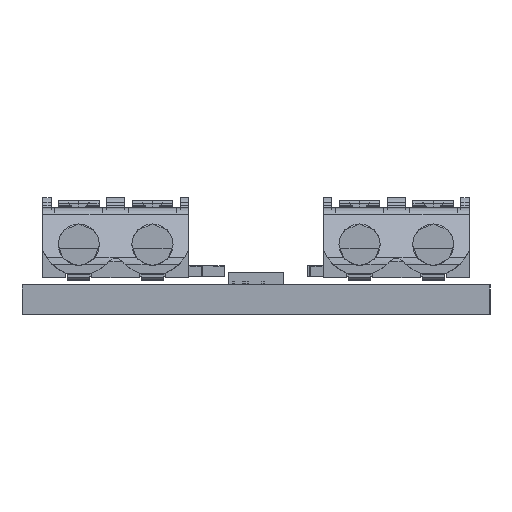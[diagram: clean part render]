
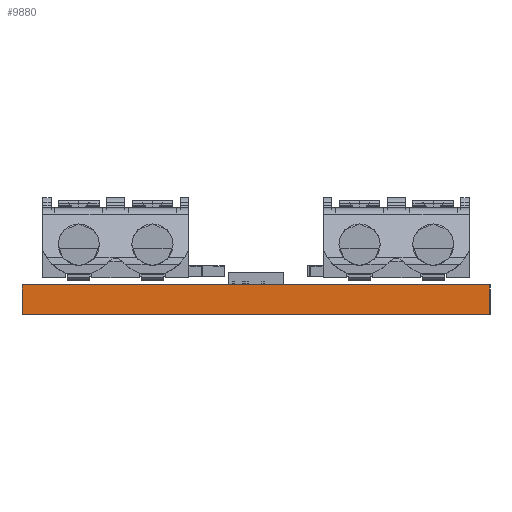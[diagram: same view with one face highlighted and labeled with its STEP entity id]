
A CAD part, left-side view. The second image highlights one B-rep face of the part: STEP entity #9880.
In plain terms, the highlighted planar face has unit normal (-1, 0, 0).
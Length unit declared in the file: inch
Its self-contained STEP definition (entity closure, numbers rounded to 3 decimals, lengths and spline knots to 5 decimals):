
#2557=DIRECTION('',(0.,-1.,0.));
#2558=VECTOR('',#2557,25.4);
#2559=CARTESIAN_POINT('',(-571.5,12.7,0.));
#2560=LINE('',#2559,#2558);
#2564=DIRECTION('',(0.,0.,1.));
#2565=VECTOR('',#2564,1.6);
#2566=CARTESIAN_POINT('',(-571.5,-12.7,0.));
#2567=LINE('',#2566,#2565);
#2571=DIRECTION('',(0.,0.,1.));
#2572=VECTOR('',#2571,1.6);
#2573=CARTESIAN_POINT('',(-571.5,12.7,0.));
#2574=LINE('',#2573,#2572);
#5119=DIRECTION('',(0.,-1.,0.));
#5120=VECTOR('',#5119,25.4);
#5121=CARTESIAN_POINT('',(-571.5,12.7,1.6));
#5122=LINE('',#5121,#5120);
#7660=CARTESIAN_POINT('',(-571.5,-12.7,0.));
#7662=VERTEX_POINT('',#7660);
#8386=CARTESIAN_POINT('',(-571.5,12.7,0.));
#8387=VERTEX_POINT('',#8386);
#8388=CARTESIAN_POINT('',(-571.5,-12.7,1.6));
#8390=VERTEX_POINT('',#8388);
#9114=CARTESIAN_POINT('',(-571.5,12.7,1.6));
#9115=VERTEX_POINT('',#9114);
#9867=CARTESIAN_POINT('',(-571.5,12.7,0.));
#9868=DIRECTION('',(-1.,0.,0.));
#9869=DIRECTION('',(0.,-1.,0.));
#9870=AXIS2_PLACEMENT_3D('',#9867,#9868,#9869);
#9871=PLANE('',#9870);
#9872=ORIENTED_EDGE('',*,*,#9847,.F.);
#9874=ORIENTED_EDGE('',*,*,#9873,.T.);
#9876=ORIENTED_EDGE('',*,*,#9875,.T.);
#9877=ORIENTED_EDGE('',*,*,#9858,.F.);
#9878=EDGE_LOOP('',(#9872,#9874,#9876,#9877));
#9879=FACE_OUTER_BOUND('',#9878,.F.);
#9847=EDGE_CURVE('',#8387,#7662,#2560,.T.);
#9858=EDGE_CURVE('',#7662,#8390,#2567,.T.);
#9873=EDGE_CURVE('',#8387,#9115,#2574,.T.);
#9875=EDGE_CURVE('',#9115,#8390,#5122,.T.);
#9880=ADVANCED_FACE('',(#9879),#9871,.T.);
